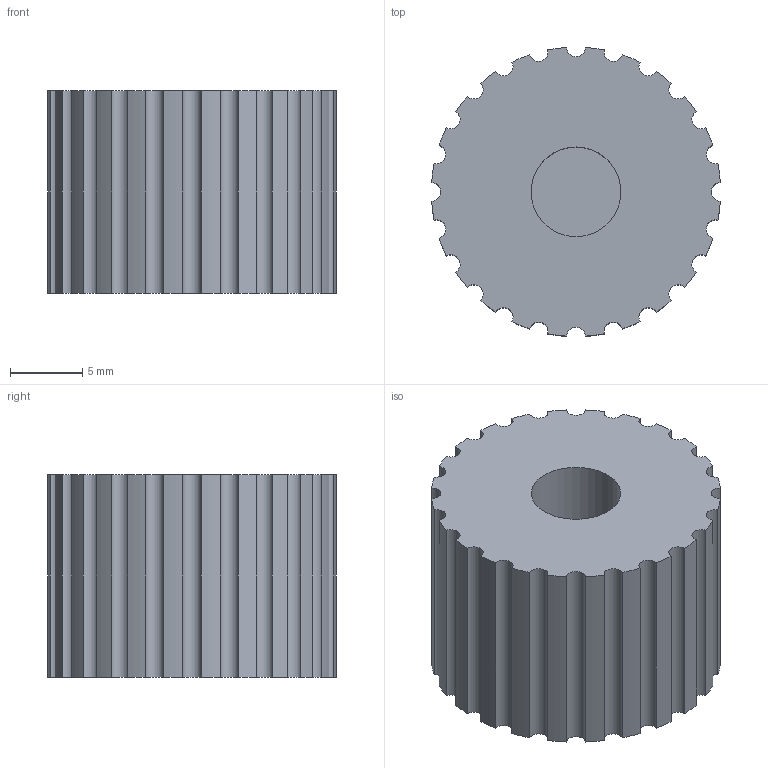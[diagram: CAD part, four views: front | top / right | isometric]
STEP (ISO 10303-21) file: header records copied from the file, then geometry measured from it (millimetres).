
FILE_DESCRIPTION(('Open CASCADE Model'),'2;1');
FILE_NAME('Open CASCADE Shape Model','2026-09-13T21:36:15',('Author'),( 'Open CASCADE'),'Open CASCADE STEP processor 7.9','Open CASCADE 7.9' ,'Unknown');
FILE_SCHEMA(('AUTOMOTIVE_DESIGN { 1 0 10303 214 1 1 1 1 }'));
Length unit declared in the file: millimetre
Products named in the file (1): Open CASCADE STEP translator 7.9 14
Bounding box: 19.96 x 19.96 x 14 mm (x, y, z)
Volume: 3843.1 mm3; surface area: 1933 mm2
Topology: 1 solids, 1 shells, 57 faces, 159 edges, 106 vertices
Faces by surface type: cylinder 49, plane 8
Full cylindrical faces by diameter (mm): 6.2 x1
Entity records: 3897 total; most frequent: CARTESIAN_POINT 811, DIRECTION 576, ORIENTED_EDGE 318, PCURVE 318, DEFINITIONAL_REPRESENTATION 318, CIRCLE 185, LINE 177, VECTOR 177
